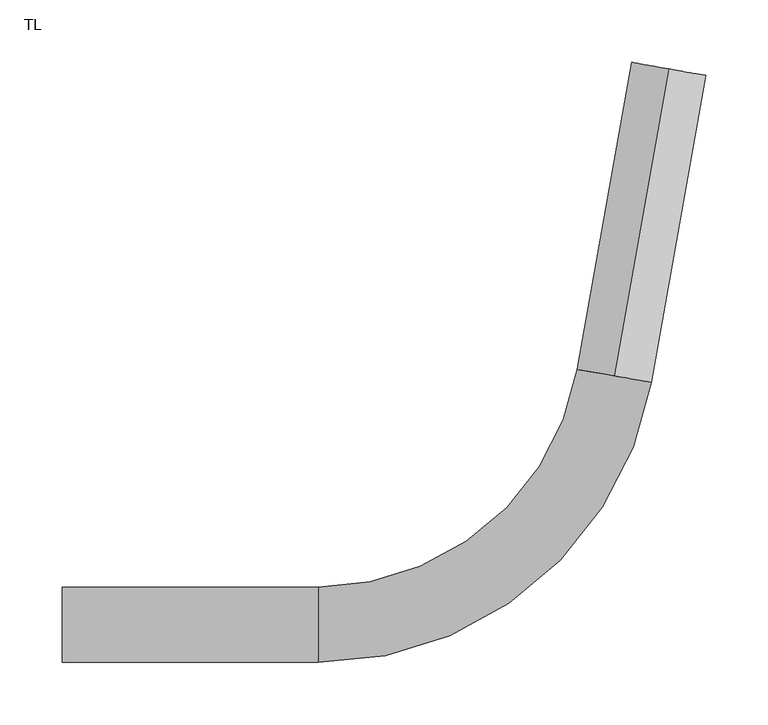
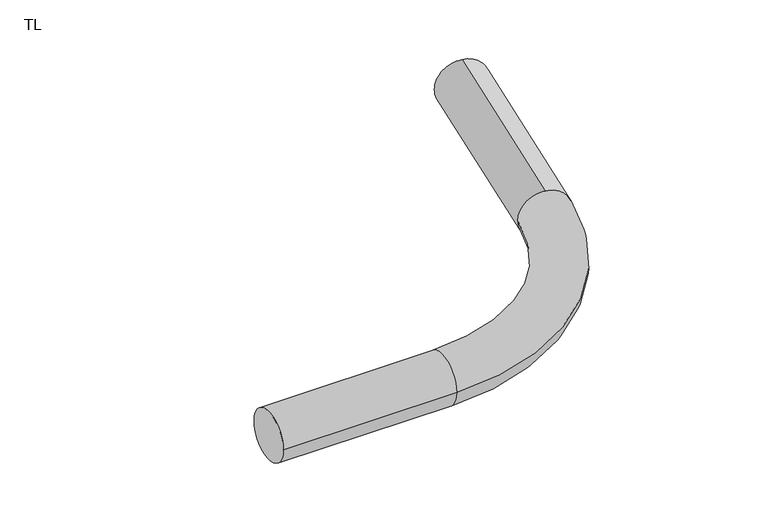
"""IFC4 building model written with IfcOpenShell, lengths in millimetres: cable carrier fitting geometry, PavcoWavin_ConduitFittings_Curva : TL."""

from ifc_helpers import new_model, si_unit, point, frame, origin, place, context, project, spatial, circle_curve, ellipse_curve, trimmed, source, transform, mapped, element, save
from ifc_brep_helpers import plane_surface, cylinder_surface, revolved_surface, advanced_brep


def tl_f0d449e0(model_context):
    return source(origin(), model_context, "Body", "AdvancedBrep", [
        advanced_brep(
        [(-407.474741, -30.16, 0.0), (-407.474741, 30.16, 0.0), (-202.474741, -30.16, 0.0), (-202.474741, 30.16, 0.0), (64.8611716, 194.1614657, 0.0), (35.1593698, 199.3986947, 30.16), (5.457568, 204.6359238, 0.0), (35.1593698, 199.3986947, -30.16), (78.5714142, 445.600633, -30.16), (78.5714142, 445.600633, 30.16)],
        [
            (0, 1, circle_curve(frame((-407.474741, 0.0, 0.0), z_axis=(-1.0, 0.0, 0.0), x_axis=(0.0, 1.0, 0.0)), 30.16)),
            (1, 0, circle_curve(frame((-407.474741, 0.0, 0.0), z_axis=(-1.0, 0.0, 0.0), x_axis=(0.0, 1.0, 0.0)), 30.16)),
            (0, 2),
            (2, 3, circle_curve(frame((-202.474741, 0.0, 0.0), z_axis=(-1.0, 0.0, 0.0), x_axis=(0.0, 1.0, 0.0)), 30.16)),
            (3, 1),
            (3, 2, circle_curve(frame((-202.474741, 0.0, 0.0), z_axis=(-1.0, 0.0, 0.0), x_axis=(0.0, 1.0, 0.0)), 30.16)),
            (2, 4, circle_curve(frame((-202.474741, 241.3, 0.0), z_axis=(0.0, 0.0, 1.0), x_axis=(0.0, -1.0, 0.0)), 271.46)),
            (4, 5, circle_curve(frame((35.1593698, 199.3986947, 0.0), z_axis=(-0.17364817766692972, -0.9848077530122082, 0.0), x_axis=(-0.9848077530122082, 0.17364817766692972, 0.0)), 30.16)),
            (5, 6, circle_curve(frame((35.1593698, 199.3986947, 0.0), z_axis=(-0.17364817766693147, -0.9848077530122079, 0.0), x_axis=(-0.9848077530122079, 0.17364817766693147, 0.0)), 30.16)),
            (6, 3, circle_curve(frame((-202.474741, 241.3, 0.0), z_axis=(0.0, 0.0, -1.0), x_axis=(0.0, -1.0, 0.0)), 211.14)),
            (6, 7, circle_curve(frame((35.1593698, 199.3986947, 0.0), z_axis=(-0.17364817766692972, -0.9848077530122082, 0.0), x_axis=(-0.9848077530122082, 0.17364817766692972, 0.0)), 30.16)),
            (7, 4, circle_curve(frame((35.1593698, 199.3986947, 0.0), z_axis=(-0.17364817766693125, -0.9848077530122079, 0.0), x_axis=(-0.9848077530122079, 0.17364817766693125, 0.0)), 30.16)),
            (8, 9, circle_curve(frame((78.5714142, 445.600633, 0.0), z_axis=(0.17364817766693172, 0.9848077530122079, 0.0), x_axis=(0.0, 0.0, 1.0)), 30.16)),
            (9, 8, circle_curve(frame((78.5714142, 445.600633, 0.0), z_axis=(0.17364817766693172, 0.9848077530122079, 0.0), x_axis=(0.0, 0.0, 1.0)), 30.16)),
            (8, 7),
            (5, 9),
        ],
        [
            plane_surface(frame((-407.474741, 0.0, 0.0), z_axis=(-1.0, 0.0, 0.0), x_axis=(0.0, 0.0, 1.0))),
            cylinder_surface(frame((-407.474741, 0.0, 0.0), z_axis=(-1.0, 0.0, 0.0), x_axis=(0.0, 1.0, 0.0)), 30.16),
            revolved_surface(trimmed(ellipse_curve(frame((-202.474741, 0.0, 0.0), z_axis=(-1.0, 0.0, 0.0), x_axis=(0.0, 1.0, 0.0)), 30.16, 30.16), [point((-202.474741, -30.16, 0.0))], [point((-202.474741, 30.16, 0.0))], True, "CARTESIAN"), (-202.474741, 241.3, 0.0), (0.0, 0.0, 1.0)),
            revolved_surface(trimmed(ellipse_curve(frame((-202.474741, 0.0, 0.0), z_axis=(-1.0, 0.0, 0.0), x_axis=(0.0, 1.0, 0.0)), 30.16, 30.16), [point((-202.474741, 30.16, 0.0))], [point((-202.474741, -30.16, 0.0))], True, "CARTESIAN"), (-202.474741, 241.3, 0.0), (0.0, 0.0, 1.0)),
            plane_surface(frame((78.5714142, 445.600633, 30.16), z_axis=(0.17364817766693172, 0.9848077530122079, 0.0), x_axis=(0.9848077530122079, -0.17364817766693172, 0.0))),
            cylinder_surface(frame((35.1593698, 199.3986947, 0.0), z_axis=(0.17364817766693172, 0.9848077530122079, 0.0), x_axis=(0.0, 0.0, 1.0)), 30.16),
        ],
        [
            (0, [[1, 2]]),
            (1, [[-1, 3, 4, 5]]),
            (1, [[-2, -5, 6, -3]]),
            (2, [[-4, 7, 8, 9, 10]]),
            (3, [[-6, -10, 11, 12, -7]]),
            (4, [[13, 14]]),
            (5, [[-13, 15, -11, -9, 16]]),
            (5, [[-14, -16, -8, -12, -15]]),
        ],
    ),
    ])


if __name__ == "__main__":
    model = new_model("IFC4")
    model_context = context("Model", 3, world=origin())
    ifc_project = project(units=[si_unit("LENGTHUNIT", "METRE", prefix="MILLI")], contexts=[model_context])
    site = spatial("IfcSite", under=ifc_project)
    building = spatial("IfcBuilding", under=site)
    placement = place(None, origin())
    tl_shape = tl_f0d449e0(model_context)
    element("IfcCableCarrierFitting", 1, ObjectType="PavcoWavin_ConduitFittings_Curva : TL", at=placement, inside=building, context=model_context, shape_type="MappedRepresentation", body=[
        mapped(tl_shape, transform((0.0, 0.0, 0.0), x_axis=(1.0, 0.0, 0.0), y_axis=(0.0, 1.0, 0.0), z_axis=(0.0, 0.0, 1.0))),
    ])
    save(model, "model.ifc")
